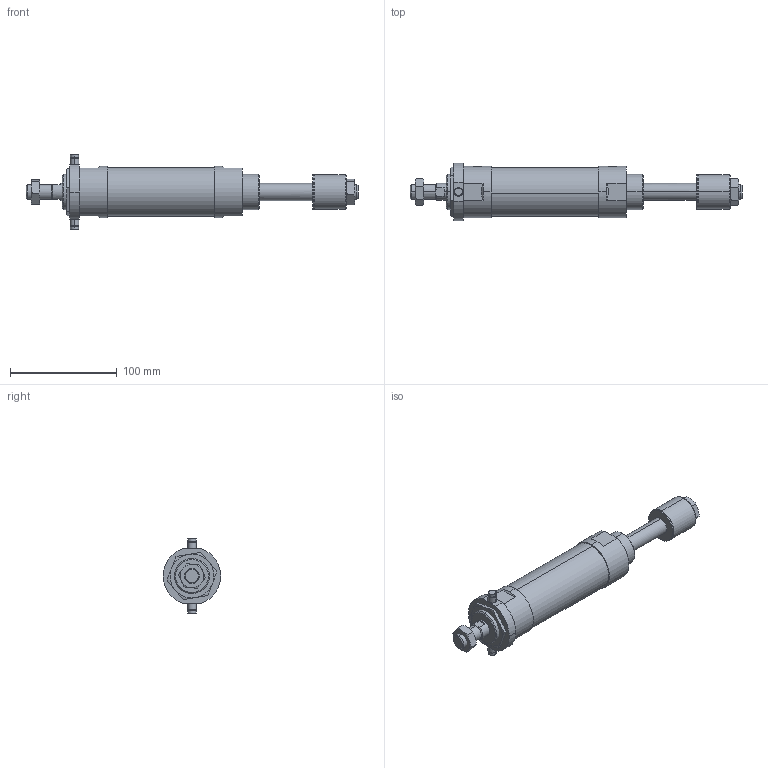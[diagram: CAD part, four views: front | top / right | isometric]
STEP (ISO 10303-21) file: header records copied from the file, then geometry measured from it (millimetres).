
FILE_DESCRIPTION (( 'STEP AP203' ), '1' );
FILE_NAME ('JGA7-40-50-T.STEP', '2016-04-20T02:00:00', ( '' ), ( '' ), 'SwSTEP 2.0', 'SolidWorks 2014', '' );
FILE_SCHEMA (( 'CONFIG_CONTROL_DESIGN' ));
Length unit declared in the file: millimetre
Products named in the file (8): 40-50; JGA7-40-Turn; JGLH2-40B; J#2-40-T; M14x1.5-8mm; JGA7-40-50-T; M33x2-3mm; JGA7-40A-50
Assembly tree (8 placements, depth 2):
  JGA7-40-50-T
    JGLH2-40B
    40-50
    JGA7-40A-50
    M14x1.5-8mm  x2
    M33x2-3mm
    J#2-40-T
    JGA7-40-Turn
Bounding box: 311.5 x 53.91 x 70 mm (x, y, z)
Volume: 347395 mm3; surface area: 60065.2 mm2
Topology: 8 solids, 8 shells, 176 faces, 393 edges, 240 vertices
Faces by surface type: plane 57, cylinder 51, torus 38, cone 30
Entity records: 5527 total; most frequent: CARTESIAN_POINT 1232, DIRECTION 755, ORIENTED_EDGE 682, EDGE_CURVE 341, AXIS2_PLACEMENT_3D 315, VERTEX_POINT 212, EDGE_LOOP 173, FACE_OUTER_BOUND 154
